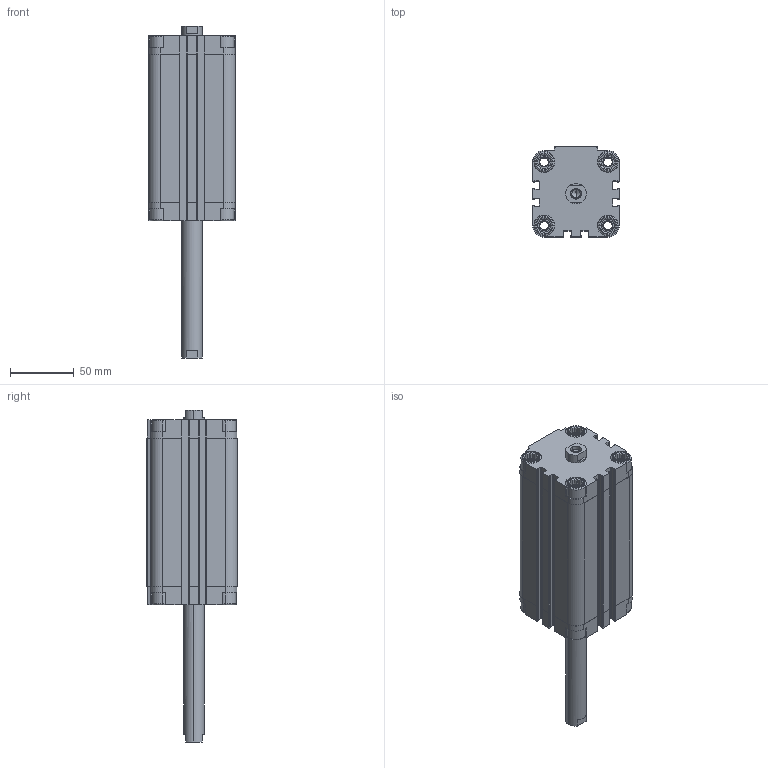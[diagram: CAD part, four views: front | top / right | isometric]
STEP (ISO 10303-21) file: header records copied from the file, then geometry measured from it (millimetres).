
FILE_DESCRIPTION (( 'STEP AP203' ), '1' );
FILE_NAME ('CDVU50-100F-P.STEP', '2020-07-24T18:36:45', ( '' ), ( '' ), 'SwSTEP 2.0', 'SolidWorks 2019', '' );
FILE_SCHEMA (( 'CONFIG_CONTROL_DESIGN' ));
Length unit declared in the file: millimetre
Products named in the file (1): CDVU50-100F-P
Bounding box: 68 x 71 x 260.5 mm (x, y, z)
Volume: 446198.2 mm3; surface area: 120089.3 mm2
Topology: 2 solids, 2 shells, 722 faces, 1928 edges, 1244 vertices
Faces by surface type: plane 422, cylinder 236, cone 48, torus 16
Entity records: 22639 total; most frequent: CARTESIAN_POINT 4463, ORIENTED_EDGE 3840, DIRECTION 3726, EDGE_CURVE 1920, AXIS2_PLACEMENT_3D 1275, VERTEX_POINT 1244, LINE 1176, VECTOR 1176
